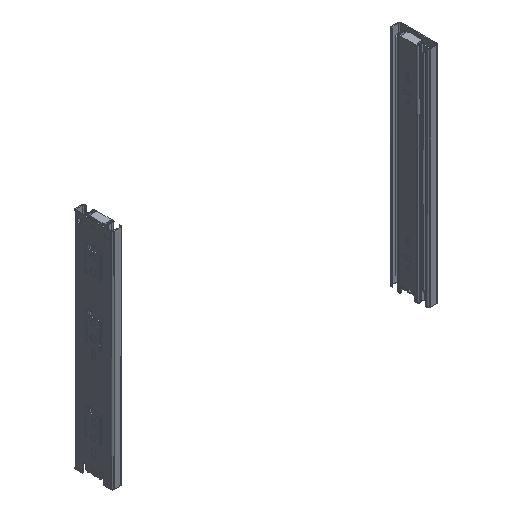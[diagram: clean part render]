
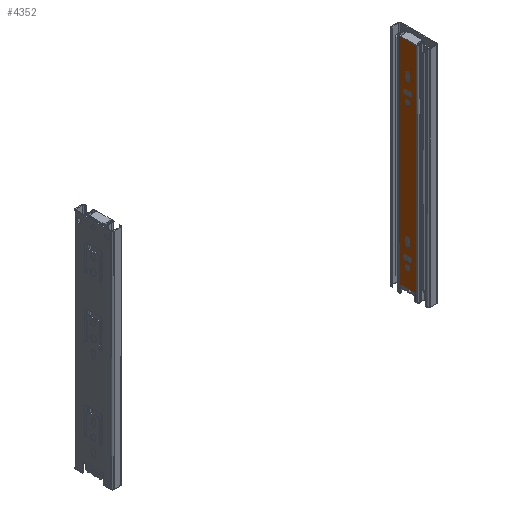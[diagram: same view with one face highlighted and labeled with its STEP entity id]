
A CAD part, isometric view. The second image highlights one B-rep face of the part: STEP entity #4352.
In plain terms, the highlighted planar face has unit normal (-1, 0, 0) as drawn and (1, 0, 0) by its records, which use the part's own axes.
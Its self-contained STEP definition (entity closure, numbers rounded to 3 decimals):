
#397=FACE_BOUND('',#1695,.T.);
#398=FACE_BOUND('',#1696,.T.);
#399=FACE_BOUND('',#1697,.T.);
#400=FACE_BOUND('',#1698,.T.);
#401=FACE_BOUND('',#1699,.T.);
#402=FACE_BOUND('',#1700,.T.);
#710=LINE('',#7077,#1093);
#711=LINE('',#7081,#1094);
#712=LINE('',#7085,#1095);
#713=LINE('',#7089,#1096);
#714=LINE('',#7091,#1097);
#715=LINE('',#7093,#1098);
#716=LINE('',#7095,#1099);
#717=LINE('',#7096,#1100);
#718=LINE('',#7101,#1101);
#719=LINE('',#7104,#1102);
#720=LINE('',#7111,#1103);
#721=LINE('',#7114,#1104);
#722=LINE('',#7119,#1105);
#723=LINE('',#7122,#1106);
#724=LINE('',#7129,#1107);
#725=LINE('',#7132,#1108);
#1093=VECTOR('',#5796,6.5);
#1094=VECTOR('',#5799,13.);
#1095=VECTOR('',#5802,6.5);
#1096=VECTOR('',#5805,1.4);
#1097=VECTOR('',#5806,249.);
#1098=VECTOR('',#5807,19.8);
#1099=VECTOR('',#5808,249.);
#1100=VECTOR('',#5809,1.4);
#1101=VECTOR('',#5812,4.5);
#1102=VECTOR('',#5815,4.5);
#1103=VECTOR('',#5820,4.5);
#1104=VECTOR('',#5823,4.5);
#1105=VECTOR('',#5826,4.5);
#1106=VECTOR('',#5829,4.5);
#1107=VECTOR('',#5834,4.5);
#1108=VECTOR('',#5837,4.5);
#1259=PLANE('',#4731);
#1445=FACE_OUTER_BOUND('',#1694,.T.);
#1694=EDGE_LOOP('',(#3906,#3907,#3908,#3909,#3910,#3911,#3912,#3913,#3914,
#3915,#3916,#3917));
#1695=EDGE_LOOP('',(#3918,#3919,#3920,#3921));
#1696=EDGE_LOOP('',(#3922));
#1697=EDGE_LOOP('',(#3923,#3924,#3925,#3926));
#1698=EDGE_LOOP('',(#3927,#3928,#3929,#3930));
#1699=EDGE_LOOP('',(#3931));
#1700=EDGE_LOOP('',(#3932,#3933,#3934,#3935));
#1911=CIRCLE('',#4729,1.);
#1913=CIRCLE('',#4732,1.);
#1914=CIRCLE('',#4733,1.);
#1915=CIRCLE('',#4734,1.);
#1916=CIRCLE('',#4735,2.25);
#1917=CIRCLE('',#4736,2.25);
#1918=CIRCLE('',#4737,2.25);
#1919=CIRCLE('',#4738,2.25);
#1920=CIRCLE('',#4739,2.25);
#1921=CIRCLE('',#4740,2.25);
#1922=CIRCLE('',#4741,2.25);
#1923=CIRCLE('',#4742,2.25);
#1924=CIRCLE('',#4743,2.25);
#1925=CIRCLE('',#4744,2.25);
#2281=VERTEX_POINT('',#7067);
#2282=VERTEX_POINT('',#7068);
#2285=VERTEX_POINT('',#7076);
#2286=VERTEX_POINT('',#7078);
#2287=VERTEX_POINT('',#7080);
#2288=VERTEX_POINT('',#7082);
#2289=VERTEX_POINT('',#7084);
#2290=VERTEX_POINT('',#7086);
#2291=VERTEX_POINT('',#7088);
#2292=VERTEX_POINT('',#7090);
#2293=VERTEX_POINT('',#7092);
#2294=VERTEX_POINT('',#7094);
#2295=VERTEX_POINT('',#7097);
#2296=VERTEX_POINT('',#7098);
#2297=VERTEX_POINT('',#7100);
#2298=VERTEX_POINT('',#7102);
#2299=VERTEX_POINT('',#7105);
#2300=VERTEX_POINT('',#7107);
#2301=VERTEX_POINT('',#7108);
#2302=VERTEX_POINT('',#7110);
#2303=VERTEX_POINT('',#7112);
#2304=VERTEX_POINT('',#7115);
#2305=VERTEX_POINT('',#7116);
#2306=VERTEX_POINT('',#7118);
#2307=VERTEX_POINT('',#7120);
#2308=VERTEX_POINT('',#7123);
#2309=VERTEX_POINT('',#7125);
#2310=VERTEX_POINT('',#7126);
#2311=VERTEX_POINT('',#7128);
#2312=VERTEX_POINT('',#7130);
#2838=EDGE_CURVE('',#2281,#2282,#1911,.T.);
#2842=EDGE_CURVE('',#2281,#2285,#710,.T.);
#2843=EDGE_CURVE('',#2286,#2285,#1913,.T.);
#2844=EDGE_CURVE('',#2286,#2287,#711,.T.);
#2845=EDGE_CURVE('',#2288,#2287,#1914,.T.);
#2846=EDGE_CURVE('',#2288,#2289,#712,.T.);
#2847=EDGE_CURVE('',#2290,#2289,#1915,.T.);
#2848=EDGE_CURVE('',#2291,#2290,#713,.T.);
#2849=EDGE_CURVE('',#2291,#2292,#714,.T.);
#2850=EDGE_CURVE('',#2293,#2292,#715,.T.);
#2851=EDGE_CURVE('',#2293,#2294,#716,.T.);
#2852=EDGE_CURVE('',#2282,#2294,#717,.T.);
#2853=EDGE_CURVE('',#2295,#2296,#1916,.T.);
#2854=EDGE_CURVE('',#2296,#2297,#718,.T.);
#2855=EDGE_CURVE('',#2297,#2298,#1917,.T.);
#2856=EDGE_CURVE('',#2298,#2295,#719,.T.);
#2857=EDGE_CURVE('',#2299,#2299,#1918,.T.);
#2858=EDGE_CURVE('',#2300,#2301,#1919,.T.);
#2859=EDGE_CURVE('',#2301,#2302,#720,.T.);
#2860=EDGE_CURVE('',#2302,#2303,#1920,.T.);
#2861=EDGE_CURVE('',#2303,#2300,#721,.T.);
#2862=EDGE_CURVE('',#2304,#2305,#1921,.T.);
#2863=EDGE_CURVE('',#2305,#2306,#722,.T.);
#2864=EDGE_CURVE('',#2306,#2307,#1922,.T.);
#2865=EDGE_CURVE('',#2307,#2304,#723,.T.);
#2866=EDGE_CURVE('',#2308,#2308,#1923,.T.);
#2867=EDGE_CURVE('',#2309,#2310,#1924,.T.);
#2868=EDGE_CURVE('',#2310,#2311,#724,.T.);
#2869=EDGE_CURVE('',#2311,#2312,#1925,.T.);
#2870=EDGE_CURVE('',#2312,#2309,#725,.T.);
#3906=ORIENTED_EDGE('',*,*,#2838,.F.);
#3907=ORIENTED_EDGE('',*,*,#2842,.T.);
#3908=ORIENTED_EDGE('',*,*,#2843,.F.);
#3909=ORIENTED_EDGE('',*,*,#2844,.T.);
#3910=ORIENTED_EDGE('',*,*,#2845,.F.);
#3911=ORIENTED_EDGE('',*,*,#2846,.T.);
#3912=ORIENTED_EDGE('',*,*,#2847,.F.);
#3913=ORIENTED_EDGE('',*,*,#2848,.F.);
#3914=ORIENTED_EDGE('',*,*,#2849,.T.);
#3915=ORIENTED_EDGE('',*,*,#2850,.F.);
#3916=ORIENTED_EDGE('',*,*,#2851,.T.);
#3917=ORIENTED_EDGE('',*,*,#2852,.F.);
#3918=ORIENTED_EDGE('',*,*,#2853,.T.);
#3919=ORIENTED_EDGE('',*,*,#2854,.T.);
#3920=ORIENTED_EDGE('',*,*,#2855,.T.);
#3921=ORIENTED_EDGE('',*,*,#2856,.T.);
#3922=ORIENTED_EDGE('',*,*,#2857,.T.);
#3923=ORIENTED_EDGE('',*,*,#2858,.T.);
#3924=ORIENTED_EDGE('',*,*,#2859,.T.);
#3925=ORIENTED_EDGE('',*,*,#2860,.T.);
#3926=ORIENTED_EDGE('',*,*,#2861,.T.);
#3927=ORIENTED_EDGE('',*,*,#2862,.T.);
#3928=ORIENTED_EDGE('',*,*,#2863,.T.);
#3929=ORIENTED_EDGE('',*,*,#2864,.T.);
#3930=ORIENTED_EDGE('',*,*,#2865,.T.);
#3931=ORIENTED_EDGE('',*,*,#2866,.T.);
#3932=ORIENTED_EDGE('',*,*,#2867,.T.);
#3933=ORIENTED_EDGE('',*,*,#2868,.T.);
#3934=ORIENTED_EDGE('',*,*,#2869,.T.);
#3935=ORIENTED_EDGE('',*,*,#2870,.T.);
#4352=ADVANCED_FACE('',(#1445,#397,#398,#399,#400,#401,#402),#1259,.T.);
#4729=AXIS2_PLACEMENT_3D('',#7069,#5788,#5789);
#4731=AXIS2_PLACEMENT_3D('',#7075,#5794,#5795);
#4732=AXIS2_PLACEMENT_3D('',#7079,#5797,#5798);
#4733=AXIS2_PLACEMENT_3D('',#7083,#5800,#5801);
#4734=AXIS2_PLACEMENT_3D('',#7087,#5803,#5804);
#4735=AXIS2_PLACEMENT_3D('',#7099,#5810,#5811);
#4736=AXIS2_PLACEMENT_3D('',#7103,#5813,#5814);
#4737=AXIS2_PLACEMENT_3D('',#7106,#5816,#5817);
#4738=AXIS2_PLACEMENT_3D('',#7109,#5818,#5819);
#4739=AXIS2_PLACEMENT_3D('',#7113,#5821,#5822);
#4740=AXIS2_PLACEMENT_3D('',#7117,#5824,#5825);
#4741=AXIS2_PLACEMENT_3D('',#7121,#5827,#5828);
#4742=AXIS2_PLACEMENT_3D('',#7124,#5830,#5831);
#4743=AXIS2_PLACEMENT_3D('',#7127,#5832,#5833);
#4744=AXIS2_PLACEMENT_3D('',#7131,#5835,#5836);
#5788=DIRECTION('center_axis',(-1.,0.,0.));
#5789=DIRECTION('ref_axis',(0.,0.707,-0.707));
#5794=DIRECTION('center_axis',(1.,0.,0.));
#5795=DIRECTION('ref_axis',(0.,-1.,0.));
#5796=DIRECTION('',(0.,0.,1.));
#5797=DIRECTION('center_axis',(1.,0.,0.));
#5798=DIRECTION('ref_axis',(0.,-0.707,0.707));
#5799=DIRECTION('',(0.,1.,0.));
#5800=DIRECTION('center_axis',(1.,0.,0.));
#5801=DIRECTION('ref_axis',(0.,0.707,0.707));
#5802=DIRECTION('',(0.,0.,-1.));
#5803=DIRECTION('center_axis',(-1.,0.,0.));
#5804=DIRECTION('ref_axis',(0.,-0.707,-0.707));
#5805=DIRECTION('',(0.,-1.,0.));
#5806=DIRECTION('',(0.,0.,1.));
#5807=DIRECTION('',(0.,1.,0.));
#5808=DIRECTION('',(0.,0.,-1.));
#5809=DIRECTION('',(0.,-1.,0.));
#5810=DIRECTION('center_axis',(-1.,0.,0.));
#5811=DIRECTION('ref_axis',(0.,0.,1.));
#5812=DIRECTION('',(0.,1.,0.));
#5813=DIRECTION('center_axis',(-1.,0.,0.));
#5814=DIRECTION('ref_axis',(0.,0.,-1.));
#5815=DIRECTION('',(0.,-1.,0.));
#5816=DIRECTION('center_axis',(-1.,0.,0.));
#5817=DIRECTION('ref_axis',(0.,0.,1.));
#5818=DIRECTION('center_axis',(-1.,0.,0.));
#5819=DIRECTION('ref_axis',(0.,-1.,0.));
#5820=DIRECTION('',(0.,0.,1.));
#5821=DIRECTION('center_axis',(-1.,0.,0.));
#5822=DIRECTION('ref_axis',(0.,1.,0.));
#5823=DIRECTION('',(0.,0.,-1.));
#5824=DIRECTION('center_axis',(-1.,0.,0.));
#5825=DIRECTION('ref_axis',(0.,-1.,0.));
#5826=DIRECTION('',(0.,0.,1.));
#5827=DIRECTION('center_axis',(-1.,0.,0.));
#5828=DIRECTION('ref_axis',(0.,1.,0.));
#5829=DIRECTION('',(0.,0.,-1.));
#5830=DIRECTION('center_axis',(-1.,0.,0.));
#5831=DIRECTION('ref_axis',(0.,0.,1.));
#5832=DIRECTION('center_axis',(-1.,0.,0.));
#5833=DIRECTION('ref_axis',(0.,0.,1.));
#5834=DIRECTION('',(0.,1.,0.));
#5835=DIRECTION('center_axis',(-1.,0.,0.));
#5836=DIRECTION('ref_axis',(0.,0.,-1.));
#5837=DIRECTION('',(0.,-1.,0.));
#7067=CARTESIAN_POINT('',(8.,-7.5,-248.));
#7068=CARTESIAN_POINT('',(8.,-8.5,-249.));
#7069=CARTESIAN_POINT('Origin',(8.,-8.5,-248.));
#7075=CARTESIAN_POINT('Origin',(8.,11.483,0.));
#7076=CARTESIAN_POINT('',(8.,-7.5,-241.5));
#7077=CARTESIAN_POINT('',(8.,-7.5,-124.5));
#7078=CARTESIAN_POINT('',(8.,-6.5,-240.5));
#7079=CARTESIAN_POINT('Origin',(8.,-6.5,-241.5));
#7080=CARTESIAN_POINT('',(8.,6.5,-240.5));
#7081=CARTESIAN_POINT('',(8.,1.991,-240.5));
#7082=CARTESIAN_POINT('',(8.,7.5,-241.5));
#7083=CARTESIAN_POINT('Origin',(8.,6.5,-241.5));
#7084=CARTESIAN_POINT('',(8.,7.5,-248.));
#7085=CARTESIAN_POINT('',(8.,7.5,-120.25));
#7086=CARTESIAN_POINT('',(8.,8.5,-249.));
#7087=CARTESIAN_POINT('Origin',(8.,8.5,-248.));
#7088=CARTESIAN_POINT('',(8.,9.9,-249.));
#7089=CARTESIAN_POINT('',(8.,-11.483,-249.));
#7090=CARTESIAN_POINT('',(8.,9.9,0.));
#7091=CARTESIAN_POINT('',(8.,9.9,0.));
#7092=CARTESIAN_POINT('',(8.,-9.9,0.));
#7093=CARTESIAN_POINT('',(8.,-11.483,0.));
#7094=CARTESIAN_POINT('',(8.,-9.9,-249.));
#7095=CARTESIAN_POINT('',(8.,-9.9,0.));
#7096=CARTESIAN_POINT('',(8.,-11.483,-249.));
#7097=CARTESIAN_POINT('',(8.,-2.25,-213.25));
#7098=CARTESIAN_POINT('',(8.,-2.25,-208.75));
#7099=CARTESIAN_POINT('Origin',(8.,-2.25,-211.));
#7100=CARTESIAN_POINT('',(8.,2.25,-208.75));
#7101=CARTESIAN_POINT('',(8.,4.616,-208.75));
#7102=CARTESIAN_POINT('',(8.,2.25,-213.25));
#7103=CARTESIAN_POINT('Origin',(8.,2.25,-211.));
#7104=CARTESIAN_POINT('',(8.,6.866,-213.25));
#7105=CARTESIAN_POINT('',(8.,0.,-222.25));
#7106=CARTESIAN_POINT('Origin',(8.,0.,-220.));
#7107=CARTESIAN_POINT('',(8.,2.25,-197.25));
#7108=CARTESIAN_POINT('',(8.,-2.25,-197.25));
#7109=CARTESIAN_POINT('Origin',(8.,0.,-197.25));
#7110=CARTESIAN_POINT('',(8.,-2.25,-192.75));
#7111=CARTESIAN_POINT('',(8.,-2.25,-98.625));
#7112=CARTESIAN_POINT('',(8.,2.25,-192.75));
#7113=CARTESIAN_POINT('Origin',(8.,0.,-192.75));
#7114=CARTESIAN_POINT('',(8.,2.25,-96.375));
#7115=CARTESIAN_POINT('',(8.,2.25,-37.25));
#7116=CARTESIAN_POINT('',(8.,-2.25,-37.25));
#7117=CARTESIAN_POINT('Origin',(8.,0.,-37.25));
#7118=CARTESIAN_POINT('',(8.,-2.25,-32.75));
#7119=CARTESIAN_POINT('',(8.,-2.25,-18.625));
#7120=CARTESIAN_POINT('',(8.,2.25,-32.75));
#7121=CARTESIAN_POINT('Origin',(8.,0.,-32.75));
#7122=CARTESIAN_POINT('',(8.,2.25,-16.375));
#7123=CARTESIAN_POINT('',(8.,0.,-62.25));
#7124=CARTESIAN_POINT('Origin',(8.,0.,-60.));
#7125=CARTESIAN_POINT('',(8.,-2.25,-53.25));
#7126=CARTESIAN_POINT('',(8.,-2.25,-48.75));
#7127=CARTESIAN_POINT('Origin',(8.,-2.25,-51.));
#7128=CARTESIAN_POINT('',(8.,2.25,-48.75));
#7129=CARTESIAN_POINT('',(8.,4.616,-48.75));
#7130=CARTESIAN_POINT('',(8.,2.25,-53.25));
#7131=CARTESIAN_POINT('Origin',(8.,2.25,-51.));
#7132=CARTESIAN_POINT('',(8.,6.866,-53.25));
